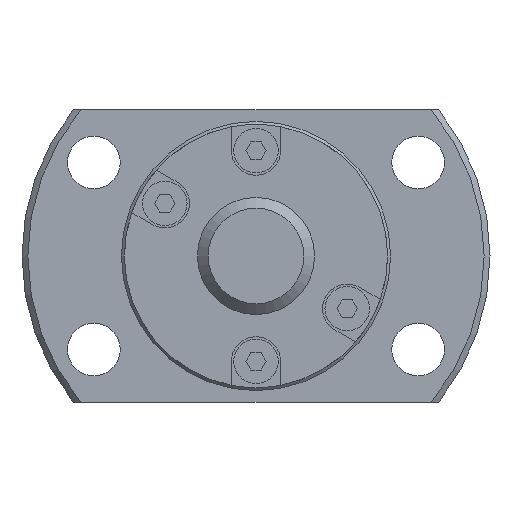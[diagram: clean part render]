
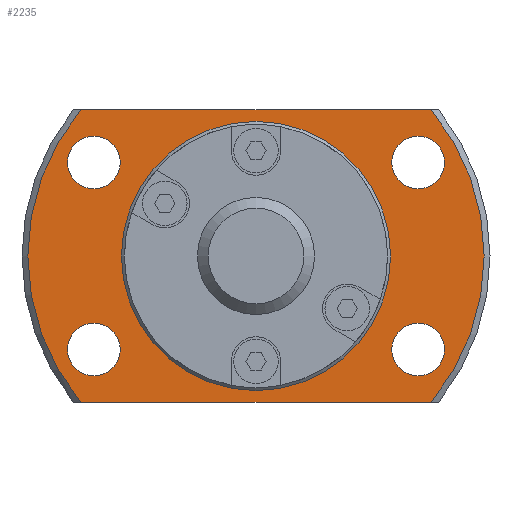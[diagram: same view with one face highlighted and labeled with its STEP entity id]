
A CAD part, left-side view. The second image highlights one B-rep face of the part: STEP entity #2235.
In plain terms, the highlighted planar face has unit normal (-1, 0, 0).
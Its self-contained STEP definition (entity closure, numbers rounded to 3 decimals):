
#68=LINE('',#3461,#284);
#69=LINE('',#3465,#285);
#284=VECTOR('',#2766,1000.);
#285=VECTOR('',#2769,1000.);
#605=ORIENTED_EDGE('',*,*,#1201,.F.);
#606=ORIENTED_EDGE('',*,*,#1202,.F.);
#607=ORIENTED_EDGE('',*,*,#1203,.F.);
#608=ORIENTED_EDGE('',*,*,#1204,.F.);
#609=ORIENTED_EDGE('',*,*,#1187,.F.);
#610=ORIENTED_EDGE('',*,*,#1205,.T.);
#611=ORIENTED_EDGE('',*,*,#1206,.F.);
#612=ORIENTED_EDGE('',*,*,#1207,.T.);
#613=ORIENTED_EDGE('',*,*,#1200,.T.);
#1187=EDGE_CURVE('',#1489,#1490,#1670,.T.);
#1200=EDGE_CURVE('',#1501,#1501,#1678,.T.);
#1201=EDGE_CURVE('',#1502,#1502,#1679,.F.);
#1202=EDGE_CURVE('',#1503,#1503,#1680,.F.);
#1203=EDGE_CURVE('',#1504,#1504,#1681,.F.);
#1204=EDGE_CURVE('',#1505,#1505,#1682,.F.);
#1205=EDGE_CURVE('',#1489,#1506,#68,.T.);
#1206=EDGE_CURVE('',#1507,#1506,#1683,.T.);
#1207=EDGE_CURVE('',#1507,#1490,#69,.T.);
#1489=VERTEX_POINT('',#3409);
#1490=VERTEX_POINT('',#3411);
#1501=VERTEX_POINT('',#3451);
#1502=VERTEX_POINT('',#3454);
#1503=VERTEX_POINT('',#3456);
#1504=VERTEX_POINT('',#3458);
#1505=VERTEX_POINT('',#3460);
#1506=VERTEX_POINT('',#3462);
#1507=VERTEX_POINT('',#3464);
#1670=CIRCLE('',#2418,19.5);
#1678=CIRCLE('',#2433,11.25);
#1679=CIRCLE('',#2435,2.25);
#1680=CIRCLE('',#2436,2.25);
#1681=CIRCLE('',#2437,2.25);
#1682=CIRCLE('',#2438,2.25);
#1683=CIRCLE('',#2439,19.5);
#1764=EDGE_LOOP('',(#605));
#1765=EDGE_LOOP('',(#606));
#1766=EDGE_LOOP('',(#607));
#1767=EDGE_LOOP('',(#608));
#1768=EDGE_LOOP('',(#609,#610,#611,#612));
#1769=EDGE_LOOP('',(#613));
#1958=FACE_BOUND('',#1764,.T.);
#1959=FACE_BOUND('',#1765,.T.);
#1960=FACE_BOUND('',#1766,.T.);
#1961=FACE_BOUND('',#1767,.T.);
#1962=FACE_BOUND('',#1768,.T.);
#1963=FACE_BOUND('',#1769,.T.);
#2124=PLANE('',#2434);
#2235=ADVANCED_FACE('',(#1958,#1959,#1960,#1961,#1962,#1963),#2124,.F.);
#2418=AXIS2_PLACEMENT_3D('',#3410,#2722,#2723);
#2433=AXIS2_PLACEMENT_3D('',#3450,#2754,#2755);
#2434=AXIS2_PLACEMENT_3D('',#3452,#2756,#2757);
#2435=AXIS2_PLACEMENT_3D('',#3453,#2758,#2759);
#2436=AXIS2_PLACEMENT_3D('',#3455,#2760,#2761);
#2437=AXIS2_PLACEMENT_3D('',#3457,#2762,#2763);
#2438=AXIS2_PLACEMENT_3D('',#3459,#2764,#2765);
#2439=AXIS2_PLACEMENT_3D('',#3463,#2767,#2768);
#2722=DIRECTION('',(1.,0.,0.));
#2723=DIRECTION('',(0.,0.,-1.));
#2754=DIRECTION('',(1.,0.,0.));
#2755=DIRECTION('',(0.,0.,-1.));
#2756=DIRECTION('',(1.,0.,0.));
#2757=DIRECTION('',(0.,0.,-1.));
#2758=DIRECTION('',(1.,0.,0.));
#2759=DIRECTION('',(0.,0.,-1.));
#2760=DIRECTION('',(1.,0.,0.));
#2761=DIRECTION('',(0.,0.,-1.));
#2762=DIRECTION('',(1.,0.,0.));
#2763=DIRECTION('',(0.,0.,-1.));
#2764=DIRECTION('',(1.,0.,0.));
#2765=DIRECTION('',(0.,0.,-1.));
#2766=DIRECTION('',(0.,-1.,0.));
#2767=DIRECTION('',(1.,0.,0.));
#2768=DIRECTION('',(0.,0.,-1.));
#2769=DIRECTION('',(0.,1.,0.));
#3409=CARTESIAN_POINT('',(22.,14.967,-12.5));
#3410=CARTESIAN_POINT('',(22.,0.,0.));
#3411=CARTESIAN_POINT('',(22.,14.967,12.5));
#3450=CARTESIAN_POINT('',(22.,0.,0.));
#3451=CARTESIAN_POINT('',(22.,0.,-11.25));
#3452=CARTESIAN_POINT('',(22.,11.25,0.));
#3453=CARTESIAN_POINT('',(22.,-13.856,-8.));
#3454=CARTESIAN_POINT('',(22.,-13.856,-10.25));
#3455=CARTESIAN_POINT('',(22.,-13.856,8.));
#3456=CARTESIAN_POINT('',(22.,-13.856,5.75));
#3457=CARTESIAN_POINT('',(22.,13.856,-8.));
#3458=CARTESIAN_POINT('',(22.,13.856,-10.25));
#3459=CARTESIAN_POINT('',(22.,13.856,8.));
#3460=CARTESIAN_POINT('',(22.,13.856,5.75));
#3461=CARTESIAN_POINT('',(22.,11.25,-12.5));
#3462=CARTESIAN_POINT('',(22.,-14.967,-12.5));
#3463=CARTESIAN_POINT('',(22.,0.,0.));
#3464=CARTESIAN_POINT('',(22.,-14.967,12.5));
#3465=CARTESIAN_POINT('',(22.,11.25,12.5));
